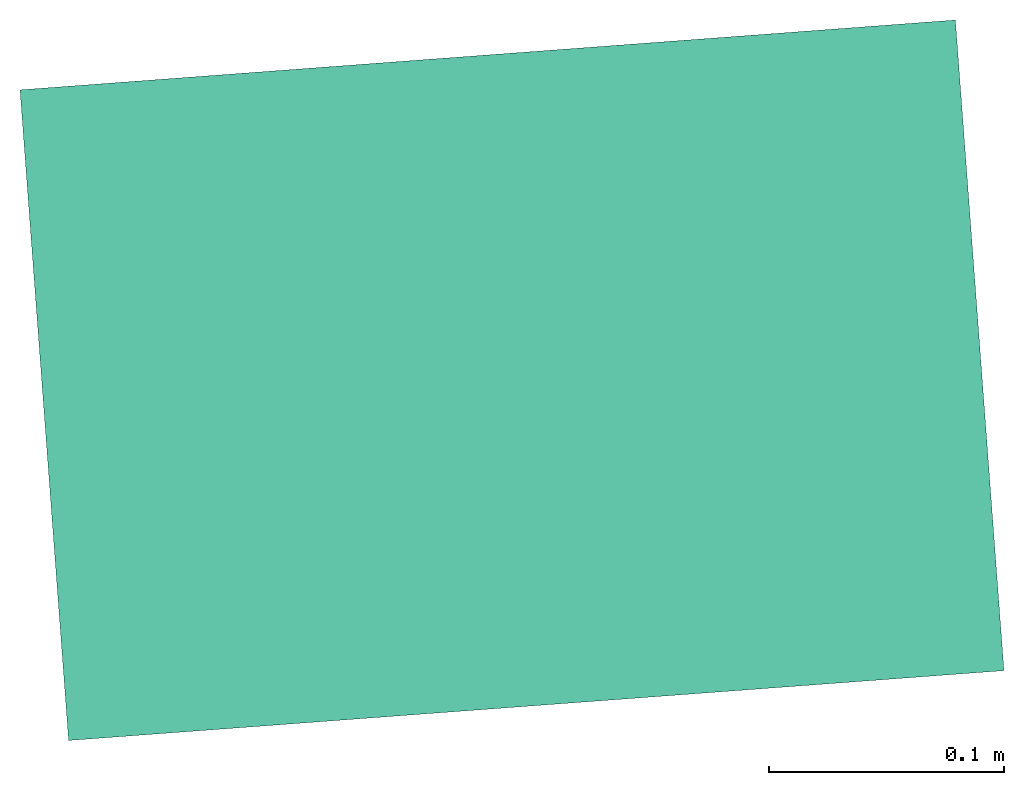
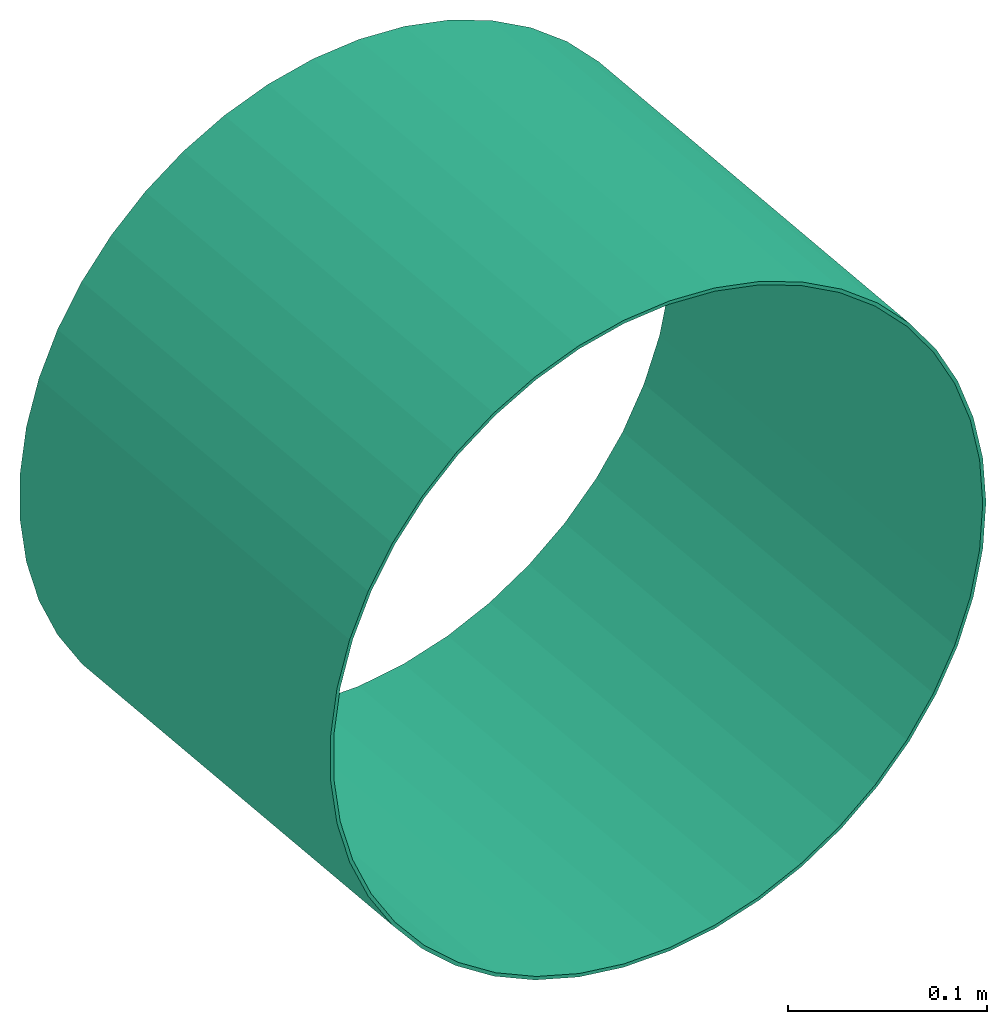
# One storey: 1 flow segment.
"""IFC2X3 building model written with IfcOpenShell, lengths in millimetres."""

from ifc_helpers import new_model, entity, si_unit, converted_unit, derived_unit, direction, frame, origin_with_axes, origin_2d_with_axis, place, context, subcontext, project, spatial, hollow_circle, extrude, source, transform, mapped, type_object, element, save


model = new_model("IFC2X3")

# Units and contexts
model_context = context("Model", 3, precision=0.01, world=frame((0.0, 4.29681676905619e-09, 0.0)), true_north=direction((4.01073788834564e-13, 1.0)))
plan_context = context("Plan", 3, precision=0.01, world=frame((0.0, 4.29681676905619e-09, 0.0)), true_north=direction((4.01073788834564e-13, 1.0)))
body_context = subcontext(model_context, "Body", "Model", "MODEL_VIEW")
ifc_project = project(units=[converted_unit("PLANEANGLEUNIT", "DEGREE", entity("IfcPositiveLengthMeasure", 0.0174532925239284), si_unit("PLANEANGLEUNIT", "RADIAN"), dimensions=[0, 0, 0, 0, 0, 0, 0]), si_unit("AREAUNIT", "SQUARE_METRE"), si_unit("LENGTHUNIT", "METRE", prefix="MILLI"), si_unit("MASSUNIT", "GRAM", prefix="KILO"), si_unit("POWERUNIT", "WATT"), si_unit("PRESSUREUNIT", "PASCAL", prefix="KILO"), si_unit("FORCEUNIT", "NEWTON", prefix="KILO"), si_unit("ELECTRICVOLTAGEUNIT", "VOLT"), si_unit("ELECTRICCURRENTUNIT", "AMPERE"), si_unit("THERMODYNAMICTEMPERATUREUNIT", "DEGREE_CELSIUS"), si_unit("TIMEUNIT", "SECOND"), si_unit("VOLUMEUNIT", "CUBIC_METRE"), derived_unit("LINEARVELOCITYUNIT", [(si_unit("LENGTHUNIT", "METRE"), 1), (si_unit("TIMEUNIT", "SECOND"), -1)]), derived_unit("VOLUMETRICFLOWRATEUNIT", [(si_unit("VOLUMEUNIT", "CUBIC_METRE"), 1), (si_unit("TIMEUNIT", "SECOND"), -1)]), derived_unit("THERMALTRANSMITTANCEUNIT", [(si_unit("POWERUNIT", "WATT"), 1), (si_unit("THERMODYNAMICTEMPERATUREUNIT", "KELVIN"), -1), (si_unit("AREAUNIT", "SQUARE_METRE"), -1)]), derived_unit("SOUNDPRESSUREUNIT", [(si_unit("PRESSUREUNIT", "PASCAL"), 1)])], contexts=[model_context, plan_context])

# Site, building, storey
site_placement = place(None, frame((0.0, -4.29681676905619e-09, 0.0), z_axis=(0.0, 0.0, 1.0), x_axis=(1.0, 0.0, 0.0)))
site = spatial("IfcSite", under=ifc_project, at=site_placement, CompositionType="ELEMENT")
building_placement = place(site_placement, frame((0.0, 4.29681676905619e-09, 0.0), z_axis=(0.0, 0.0, 1.0), x_axis=(1.0, 0.0, 0.0)))
building = spatial("IfcBuilding", under=site, at=building_placement, Name="mc-building", CompositionType="ELEMENT")
storey_placement = place(building_placement, frame((0.0, 0.0, 205200.0), z_axis=(0.0, 0.0, 1.0), x_axis=(1.0, 0.0, 0.0)))
storey = spatial("IfcBuildingStorey", under=building, at=storey_placement, Name="Nivå D + 1,2 o", CompositionType="ELEMENT", Elevation=205200.0)

# Flow segment
duct_segment_type = type_object("IfcDuctSegmentType", Name="2 - Spiro kanaler, Forsinket stål", PredefinedType="RIGIDSEGMENT")
shared_shape = source(origin_with_axes(), body_context, "Body", "SweptSolid", [
    extrude(hollow_circle(Radius=200.0, WallThickness=2.0, at=origin_2d_with_axis()), frame((0.0, 0.0, 0.0), z_axis=(1.0, 0.0, 0.0), x_axis=(0.0, 1.0, 0.0)), (0.0, 0.0, 1.0), 277.9),
])
flow_segment_placement = place(storey_placement, frame((329601.47807, 465931.97301, 4099.99966999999), z_axis=(2.11758236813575e-22, -1.89999999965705e-05, 0.9999999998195), x_axis=(0.0744669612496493, -0.997223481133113, -1.89472461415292e-05)))
element("IfcFlowSegment", 1, at=flow_segment_placement, inside=storey, type_object=duct_segment_type, Name="2 - Spiro kanaler, Forsinket stål", context=body_context, shape_type="MappedRepresentation", body=[
    mapped(shared_shape, transform((0.0, 0.0, 0.0), scale=1.0)),
])

save(model, "model.ifc")
